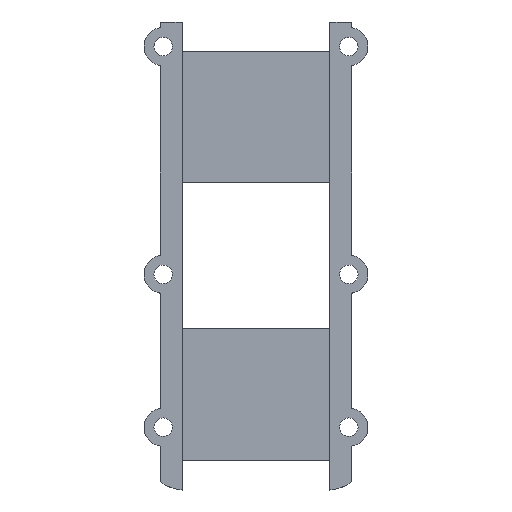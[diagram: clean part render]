
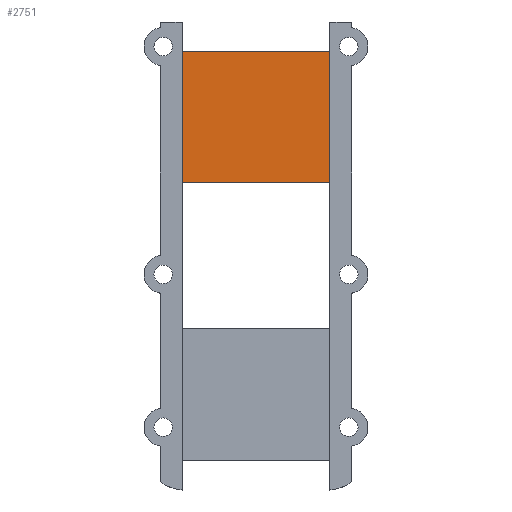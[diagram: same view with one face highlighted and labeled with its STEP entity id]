
A CAD part, top view. The second image highlights one B-rep face of the part: STEP entity #2751.
In plain terms, the highlighted planar face has unit normal (0, 0, 1).
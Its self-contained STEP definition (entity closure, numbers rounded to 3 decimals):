
#76 = PLANE('',#77);
#77 = AXIS2_PLACEMENT_3D('',#78,#79,#80);
#78 = CARTESIAN_POINT('',(9.5,89.2,-7.));
#79 = DIRECTION('',(1.,0.,-0.));
#80 = DIRECTION('',(0.,-1.,0.));
#129 = PLANE('',#130);
#130 = AXIS2_PLACEMENT_3D('',#131,#132,#133);
#131 = CARTESIAN_POINT('',(36.5,1.5,-7.));
#132 = DIRECTION('',(-1.,0.,0.));
#133 = DIRECTION('',(0.,1.,0.));
#436 = PLANE('',#437);
#437 = AXIS2_PLACEMENT_3D('',#438,#439,#440);
#438 = CARTESIAN_POINT('',(37.5,82.8,-8.));
#439 = DIRECTION('',(0.,-1.,0.));
#440 = DIRECTION('',(-1.,0.,0.));
#856 = PLANE('',#857);
#857 = AXIS2_PLACEMENT_3D('',#858,#859,#860);
#858 = CARTESIAN_POINT('',(8.5,58.8,-8.));
#859 = DIRECTION('',(0.,1.,0.));
#860 = DIRECTION('',(1.,0.,0.));
#1063 = VERTEX_POINT('',#1064);
#1064 = CARTESIAN_POINT('',(9.5,82.8,-3.6));
#1202 = VERTEX_POINT('',#1203);
#1203 = CARTESIAN_POINT('',(9.5,58.8,-3.6));
#1223 = EDGE_CURVE('',#1063,#1202,#1224,.T.);
#1224 = SURFACE_CURVE('',#1225,(#1229,#1236),.PCURVE_S1.);
#1225 = LINE('',#1226,#1227);
#1226 = CARTESIAN_POINT('',(9.5,89.2,-3.6));
#1227 = VECTOR('',#1228,1.);
#1228 = DIRECTION('',(0.,-1.,0.));
#1229 = PCURVE('',#76,#1230);
#1230 = DEFINITIONAL_REPRESENTATION('',(#1231),#1235);
#1231 = LINE('',#1232,#1233);
#1232 = CARTESIAN_POINT('',(0.,-3.4));
#1233 = VECTOR('',#1234,1.);
#1234 = DIRECTION('',(1.,0.));
#1235 = ( GEOMETRIC_REPRESENTATION_CONTEXT(2) 
PARAMETRIC_REPRESENTATION_CONTEXT() REPRESENTATION_CONTEXT('2D SPACE',''
  ) );
#1236 = PCURVE('',#1237,#1242);
#1237 = PLANE('',#1238);
#1238 = AXIS2_PLACEMENT_3D('',#1239,#1240,#1241);
#1239 = CARTESIAN_POINT('',(23.,45.35,-3.6));
#1240 = DIRECTION('',(0.,0.,1.));
#1241 = DIRECTION('',(1.,0.,-0.));
#1242 = DEFINITIONAL_REPRESENTATION('',(#1243),#1247);
#1243 = LINE('',#1244,#1245);
#1244 = CARTESIAN_POINT('',(-13.5,43.85));
#1245 = VECTOR('',#1246,1.);
#1246 = DIRECTION('',(0.,-1.));
#1247 = ( GEOMETRIC_REPRESENTATION_CONTEXT(2) 
PARAMETRIC_REPRESENTATION_CONTEXT() REPRESENTATION_CONTEXT('2D SPACE',''
  ) );
#1398 = VERTEX_POINT('',#1399);
#1399 = CARTESIAN_POINT('',(36.5,82.8,-3.6));
#1419 = EDGE_CURVE('',#1420,#1398,#1422,.T.);
#1420 = VERTEX_POINT('',#1421);
#1421 = CARTESIAN_POINT('',(36.5,58.8,-3.6));
#1422 = SURFACE_CURVE('',#1423,(#1427,#1434),.PCURVE_S1.);
#1423 = LINE('',#1424,#1425);
#1424 = CARTESIAN_POINT('',(36.5,1.5,-3.6));
#1425 = VECTOR('',#1426,1.);
#1426 = DIRECTION('',(0.,1.,0.));
#1427 = PCURVE('',#129,#1428);
#1428 = DEFINITIONAL_REPRESENTATION('',(#1429),#1433);
#1429 = LINE('',#1430,#1431);
#1430 = CARTESIAN_POINT('',(0.,-3.4));
#1431 = VECTOR('',#1432,1.);
#1432 = DIRECTION('',(1.,0.));
#1433 = ( GEOMETRIC_REPRESENTATION_CONTEXT(2) 
PARAMETRIC_REPRESENTATION_CONTEXT() REPRESENTATION_CONTEXT('2D SPACE',''
  ) );
#1434 = PCURVE('',#1237,#1435);
#1435 = DEFINITIONAL_REPRESENTATION('',(#1436),#1440);
#1436 = LINE('',#1437,#1438);
#1437 = CARTESIAN_POINT('',(13.5,-43.85));
#1438 = VECTOR('',#1439,1.);
#1439 = DIRECTION('',(0.,1.));
#1440 = ( GEOMETRIC_REPRESENTATION_CONTEXT(2) 
PARAMETRIC_REPRESENTATION_CONTEXT() REPRESENTATION_CONTEXT('2D SPACE',''
  ) );
#2185 = EDGE_CURVE('',#1063,#1398,#2186,.T.);
#2186 = SURFACE_CURVE('',#2187,(#2191,#2197),.PCURVE_S1.);
#2187 = LINE('',#2188,#2189);
#2188 = CARTESIAN_POINT('',(30.25,82.8,-3.6));
#2189 = VECTOR('',#2190,1.);
#2190 = DIRECTION('',(1.,0.,-0.));
#2191 = PCURVE('',#436,#2192);
#2192 = DEFINITIONAL_REPRESENTATION('',(#2193),#2196);
#2193 = B_SPLINE_CURVE_WITH_KNOTS('',1,(#2194,#2195),.UNSPECIFIED.,.F.,
  .F.,(2,2),(-20.75,6.25),.PIECEWISE_BEZIER_KNOTS.);
#2194 = CARTESIAN_POINT('',(28.,-4.4));
#2195 = CARTESIAN_POINT('',(1.,-4.4));
#2196 = ( GEOMETRIC_REPRESENTATION_CONTEXT(2) 
PARAMETRIC_REPRESENTATION_CONTEXT() REPRESENTATION_CONTEXT('2D SPACE',''
  ) );
#2197 = PCURVE('',#1237,#2198);
#2198 = DEFINITIONAL_REPRESENTATION('',(#2199),#2203);
#2199 = LINE('',#2200,#2201);
#2200 = CARTESIAN_POINT('',(7.25,37.45));
#2201 = VECTOR('',#2202,1.);
#2202 = DIRECTION('',(1.,0.));
#2203 = ( GEOMETRIC_REPRESENTATION_CONTEXT(2) 
PARAMETRIC_REPRESENTATION_CONTEXT() REPRESENTATION_CONTEXT('2D SPACE',''
  ) );
#2466 = EDGE_CURVE('',#1420,#1202,#2467,.T.);
#2467 = SURFACE_CURVE('',#2468,(#2472,#2478),.PCURVE_S1.);
#2468 = LINE('',#2469,#2470);
#2469 = CARTESIAN_POINT('',(15.75,58.8,-3.6));
#2470 = VECTOR('',#2471,1.);
#2471 = DIRECTION('',(-1.,0.,0.));
#2472 = PCURVE('',#856,#2473);
#2473 = DEFINITIONAL_REPRESENTATION('',(#2474),#2477);
#2474 = B_SPLINE_CURVE_WITH_KNOTS('',1,(#2475,#2476),.UNSPECIFIED.,.F.,
  .F.,(2,2),(-20.75,6.25),.PIECEWISE_BEZIER_KNOTS.);
#2475 = CARTESIAN_POINT('',(28.,-4.4));
#2476 = CARTESIAN_POINT('',(1.,-4.4));
#2477 = ( GEOMETRIC_REPRESENTATION_CONTEXT(2) 
PARAMETRIC_REPRESENTATION_CONTEXT() REPRESENTATION_CONTEXT('2D SPACE',''
  ) );
#2478 = PCURVE('',#1237,#2479);
#2479 = DEFINITIONAL_REPRESENTATION('',(#2480),#2484);
#2480 = LINE('',#2481,#2482);
#2481 = CARTESIAN_POINT('',(-7.25,13.45));
#2482 = VECTOR('',#2483,1.);
#2483 = DIRECTION('',(-1.,0.));
#2484 = ( GEOMETRIC_REPRESENTATION_CONTEXT(2) 
PARAMETRIC_REPRESENTATION_CONTEXT() REPRESENTATION_CONTEXT('2D SPACE',''
  ) );
#2751 = ADVANCED_FACE('',(#2752),#1237,.T.);
#2752 = FACE_BOUND('',#2753,.T.);
#2753 = EDGE_LOOP('',(#2754,#2755,#2756,#2757));
#2754 = ORIENTED_EDGE('',*,*,#2185,.F.);
#2755 = ORIENTED_EDGE('',*,*,#1223,.T.);
#2756 = ORIENTED_EDGE('',*,*,#2466,.F.);
#2757 = ORIENTED_EDGE('',*,*,#1419,.T.);
